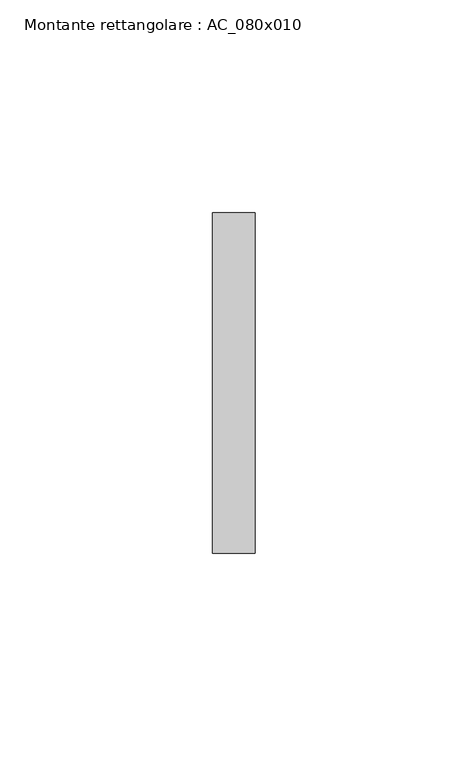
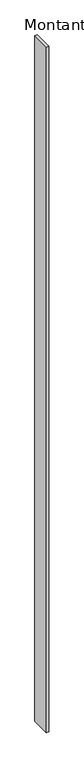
"""IFC4 building model written with IfcOpenShell, lengths in millimetres: member geometry, Montante rettangolare : AC_080x010."""

from ifc_helpers import new_model, si_unit, frame, origin, place, context, project, spatial, polyline, outline, extrude, source, transform, mapped, element, save


def montante_rettangolare_ac_080x010_f14e0e64(model_context):
    return source(origin(), model_context, "Body", "SweptSolid", [
        extrude(outline(polyline([(0.0, 40.0), (0.0, -40.0), (-10.0, -40.0), (-10.0, 40.0), (0.0, 40.0)])), frame((0.0, 0.0, -2930.0), z_axis=(0.0, 0.0, 1.0), x_axis=(1.0, 0.0, 0.0)), (0.0, 0.0, 1.0), 2930.0),
    ])


if __name__ == "__main__":
    model = new_model("IFC4")
    model_context = context("Model", 3, world=origin())
    ifc_project = project(units=[si_unit("LENGTHUNIT", "METRE", prefix="MILLI")], contexts=[model_context])
    site = spatial("IfcSite", under=ifc_project)
    building = spatial("IfcBuilding", under=site)
    placement = place(None, origin())
    montante_rettangolare_ac_080x010_shape = montante_rettangolare_ac_080x010_f14e0e64(model_context)
    element("IfcMember", 1, ObjectType="Montante rettangolare : AC_080x010", at=placement, inside=building, context=model_context, shape_type="MappedRepresentation", body=[
        mapped(montante_rettangolare_ac_080x010_shape, transform((0.0, 0.0, 0.0), x_axis=(1.0, 0.0, 0.0), y_axis=(0.0, 1.0, 0.0), z_axis=(0.0, 0.0, 1.0))),
    ])
    save(model, "model.ifc")
